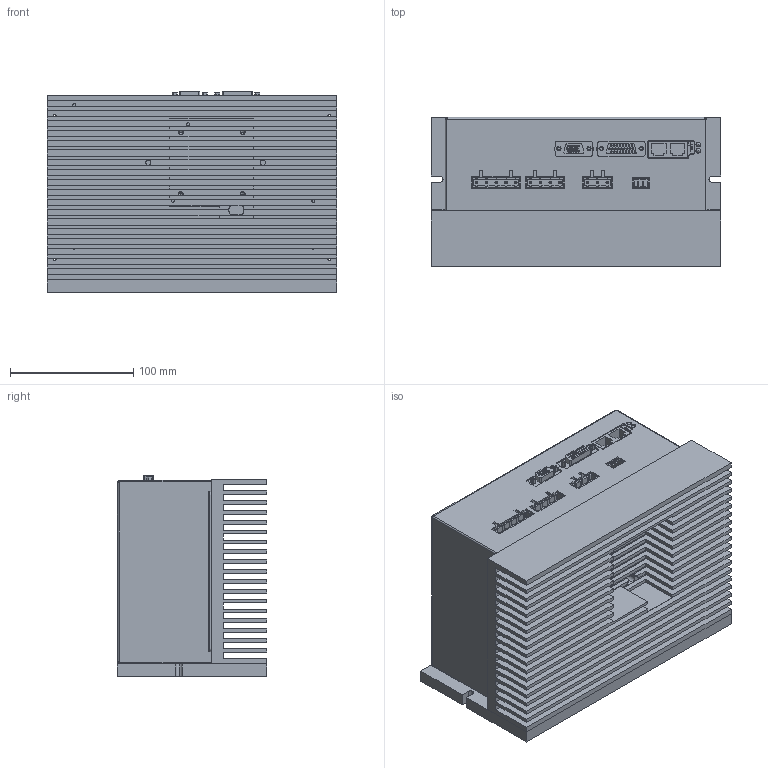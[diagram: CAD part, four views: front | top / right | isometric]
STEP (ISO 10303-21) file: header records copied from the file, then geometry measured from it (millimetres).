
FILE_DESCRIPTION (( 'STEP AP203' ), '1' );
FILE_NAME ('IXH0612 IXH1530.STEP', '2025-04-24T03:29:03', ( '' ), ( '' ), 'SwSTEP 2.0', 'SolidWorks 2018', '' );
FILE_SCHEMA (( 'CONFIG_CONTROL_DESIGN' ));
Length unit declared in the file: millimetre
Products named in the file (9): 235x150x45 底座散热片改风扇_1; 詢揤3pins傷赽_1; 詢揤4pins傷赽_1; P2秶雄惕掅傷赽_1; IXH0612  IXH1530; 235x150x45 俋褲_1; 235x150x45 底座散热片2_1; 硌尨腑湮輸翋璃_1; 詢揤5pins傷赽_1
Assembly tree (8 placements, depth 2):
  IXH0612  IXH1530
    235x150x45 底座散热片2_1
    235x150x45 俋褲_1
    235x150x45 底座散热片改风扇_1
    硌尨腑湮輸翋璃_1
    P2秶雄惕掅傷赽_1
    詢揤3pins傷赽_1
    詢揤4pins傷赽_1
    詢揤5pins傷赽_1
Bounding box: 235 x 121 x 162.7 mm (x, y, z)
Volume: 1464989.4 mm3; surface area: 699531.4 mm2
Topology: 56 solids, 56 shells, 1984 faces, 4957 edges, 3256 vertices
Faces by surface type: plane 1444, cylinder 443, cone 75, bspline 20, sphere 2
Entity records: 60404 total; most frequent: CARTESIAN_POINT 11284, ORIENTED_EDGE 9846, DIRECTION 9792, EDGE_CURVE 4923, LINE 3926, VECTOR 3926, VERTEX_POINT 3252, AXIS2_PLACEMENT_3D 2933
